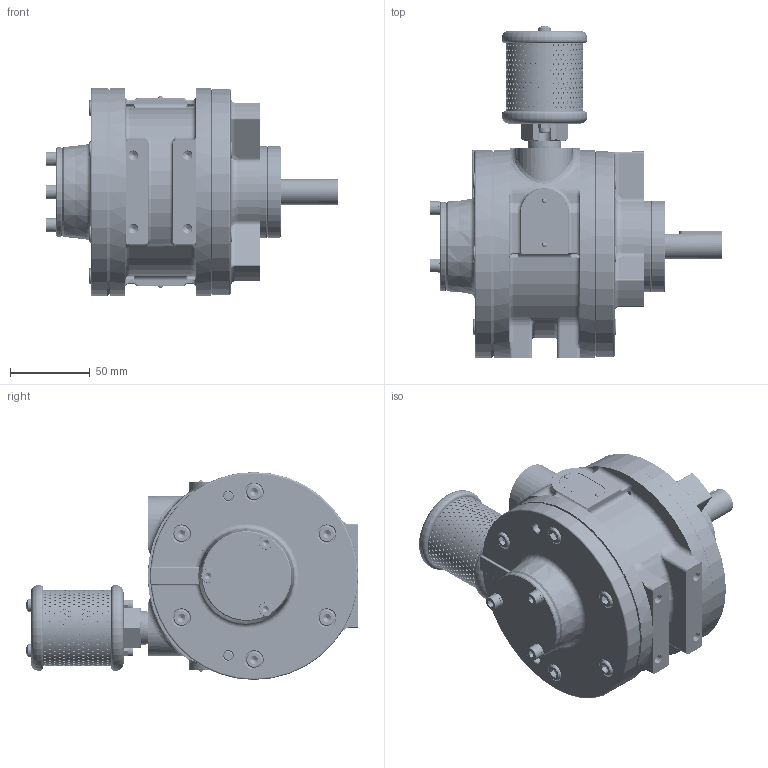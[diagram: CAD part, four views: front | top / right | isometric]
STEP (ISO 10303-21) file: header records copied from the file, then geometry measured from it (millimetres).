
FILE_DESCRIPTION (( 'STEP AP214' ), '1' );
FILE_NAME ('6VML (Face)_Solid 24-07-25.STEP', '2025-07-31T10:08:02', ( '' ), ( '' ), 'SwSTEP 2.0', 'SolidWorks 2017', '' );
FILE_SCHEMA (( 'AUTOMOTIVE_DESIGN' ));
Length unit declared in the file: millimetre
Products named in the file (2): 6VML (Face)_Solid 24-07-25
Bounding box: 183.13 x 207.72 x 130 mm (x, y, z)
Volume: 1230047.7 mm3; surface area: 352001.8 mm2
Topology: 83 solids, 83 shells, 5562 faces, 14054 edges, 8592 vertices
Faces by surface type: cylinder 2738, cone 1403, plane 965, torus 298, bspline 128, sphere 30
Entity records: 275052 total; most frequent: CARTESIAN_POINT 81829, ORIENTED_EDGE 27796, DIRECTION 25631, EDGE_CURVE 13898, AXIS2_PLACEMENT_3D 10045, VERTEX_POINT 8592, EDGE_LOOP 7302, UNCERTAINTY_MEASURE_WITH_UNIT 5647
